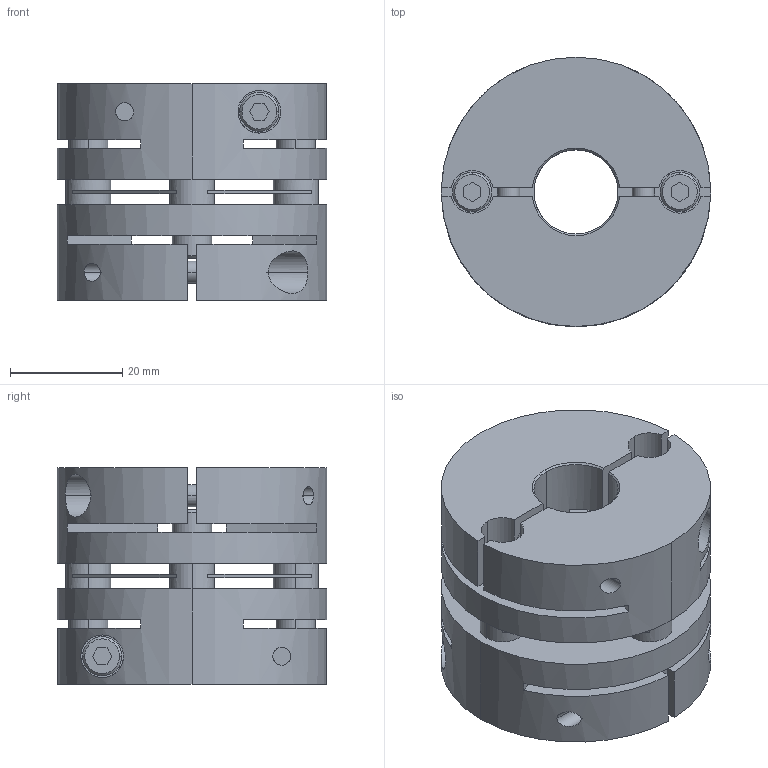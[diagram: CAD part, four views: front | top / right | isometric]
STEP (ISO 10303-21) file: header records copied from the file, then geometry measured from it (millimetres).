
FILE_DESCRIPTION((''),'2;1');
FILE_NAME('LAS-48C-15×24.stp','2011-08-09T16:59:35',(''),(''),'AutoCAD STEP 2000i','AutoCAD 2000i',', , ');
FILE_SCHEMA(('CONFIG_CONTROL_DESIGN'));
Length unit declared in the file: millimetre
Products named in the file (6): LAS-48C-12×19; 忣兜1; LA-4802-D19; LA-4802-D12-1; LA-4802-D12; LAS48-ITA
Assembly tree (5 placements, depth 2):
  LAS-48C-12×19
    忣兜1
    LA-4802-D19
    LA-4802-D12-1
    LA-4802-D12
    LAS48-ITA
Bounding box: 48 x 48 x 38.6 mm (x, y, z)
Volume: 45759.9 mm3; surface area: 21719.8 mm2
Topology: 1 solids, 1 shells, 224 faces, 600 edges, 392 vertices
Faces by surface type: plane 112, cylinder 84, cone 28
Entity records: 7841 total; most frequent: CARTESIAN_POINT 1878, DIRECTION 1256, ORIENTED_EDGE 1200, EDGE_CURVE 600, AXIS2_PLACEMENT_3D 458, VERTEX_POINT 392, VECTOR 340, LINE 340
